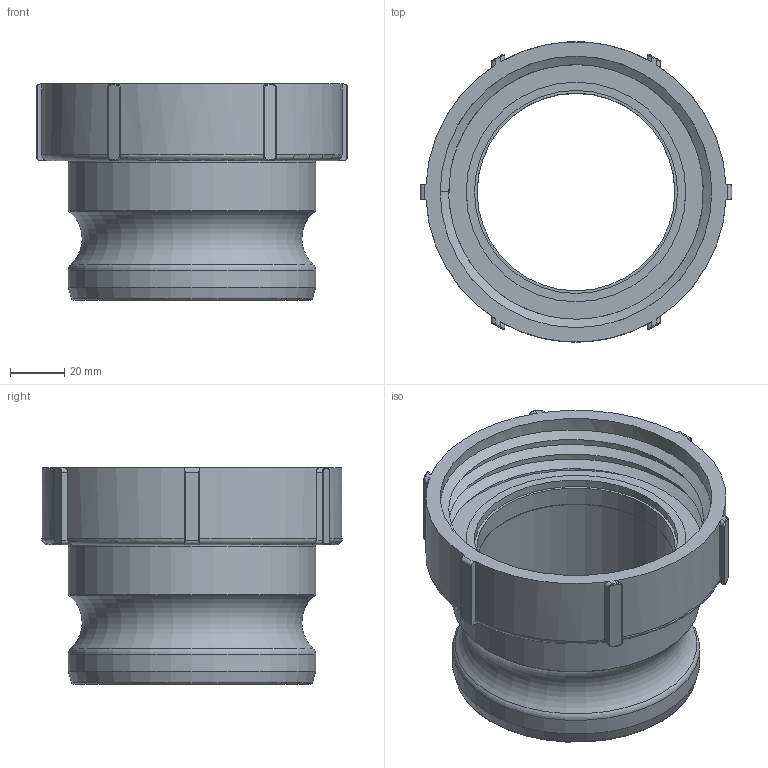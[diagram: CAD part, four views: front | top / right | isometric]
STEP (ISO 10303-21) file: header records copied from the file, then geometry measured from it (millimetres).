
FILE_DESCRIPTION(/* description */ ('Alibre Inc.'),/* implementation_level */ '2;1');
FILE_NAME(/* name */ 'export0',/* time_stamp */ '2016-07-19T10:46:23-04:00',/* author */ (''),/* organization */ (''),/* preprocessor_version */ 'ST-DEVELOPER v14',/* originating_system */ 'Alibre',/* authorisation */ '');
FILE_SCHEMA (('CONFIG_CONTROL_DESIGN'));
Length unit declared in the file: centimetre
Products named in the file (1): ID_1
Bounding box: 115.32 x 111.25 x 80.01 mm (x, y, z)
Volume: 181948.6 mm3; surface area: 61369.8 mm2
Topology: 1 solids, 1 shells, 115 faces, 281 edges, 175 vertices
Faces by surface type: cylinder 57, plane 29, bspline 18, torus 9, cone 2
Full cylindrical faces by diameter (mm): 73.189 x1, 73.203 x1, 73.209 x1, 75.184 x1, 81.28 x1, 91.52 x1, 91.542 x2, 100.584 x2
Entity records: 6096 total; most frequent: CARTESIAN_POINT 3548, ORIENTED_EDGE 518, DIRECTION 461, EDGE_CURVE 259, AXIS2_PLACEMENT_3D 196, VERTEX_POINT 169, EDGE_LOOP 136, FACE_BOUND 136
